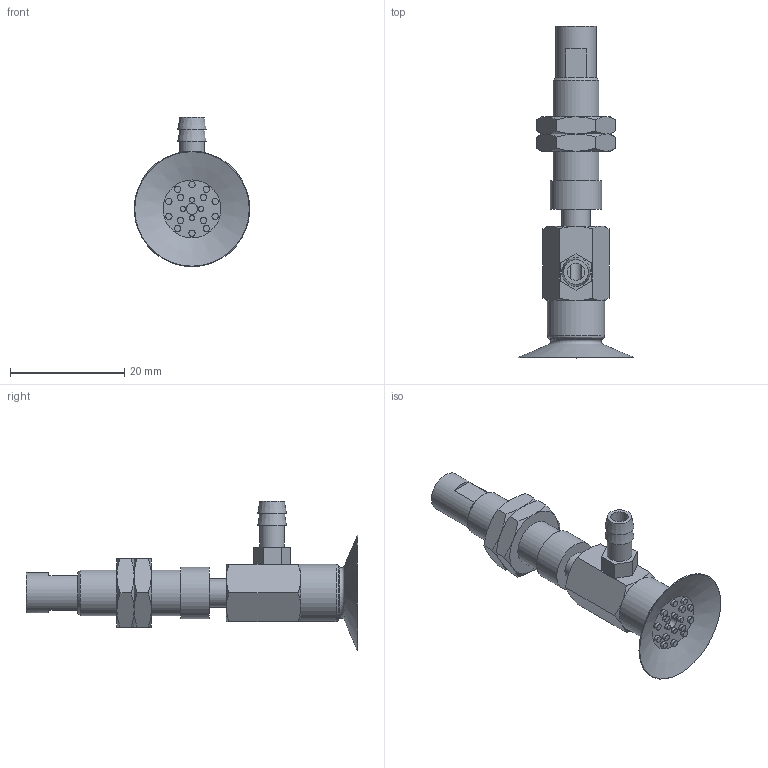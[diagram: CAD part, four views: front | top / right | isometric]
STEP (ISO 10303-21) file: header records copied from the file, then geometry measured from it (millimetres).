
FILE_DESCRIPTION(('STEP AP203'),'1');
FILE_NAME('-T.stp','2025-02-18T01:06:00',(' '),(' '),'Spatial InterOp 3D',' ',' ');
FILE_SCHEMA(('CONFIG_CONTROL_DESIGN'));
Length unit declared in the file: millimetre
Products named in the file (7): BNABPAYS-20A-3-※-T; NAPAYS-20A-3--M; NAPAYS-20A-3--F; Nut-10A-S; CONNECTOR-20A-3-PA; T; BPAG-20A-※_3D
Assembly tree (7 placements, depth 2):
  BNABPAYS-20A-3-※-T
    NAPAYS-20A-3--M
    NAPAYS-20A-3--F
    Nut-10A-S  x2
    CONNECTOR-20A-3-PA
    T
    BPAG-20A-※_3D
Bounding box: 20.19 x 58 x 26.09 mm (x, y, z)
Volume: 3883.1 mm3; surface area: 5050.4 mm2
Topology: 7 solids, 7 shells, 183 faces, 360 edges, 222 vertices
Faces by surface type: plane 81, cone 54, cylinder 38, torus 10
Full cylindrical faces by diameter (mm): 0.9 x4, 1.1 x14, 2 x2, 3 x1, 4 x2, 4.134 x2, 4.3 x1, 5 x4, 6 x2, 7 x1, 7.188 x2, 8 x1, 9 x1, 10 x1
Entity records: 4310 total; most frequent: CARTESIAN_POINT 944, DIRECTION 654, ORIENTED_EDGE 484, AXIS2_PLACEMENT_3D 298, EDGE_LOOP 264, EDGE_CURVE 242, FACE_OUTER_BOUND 207, VERTEX_POINT 186
